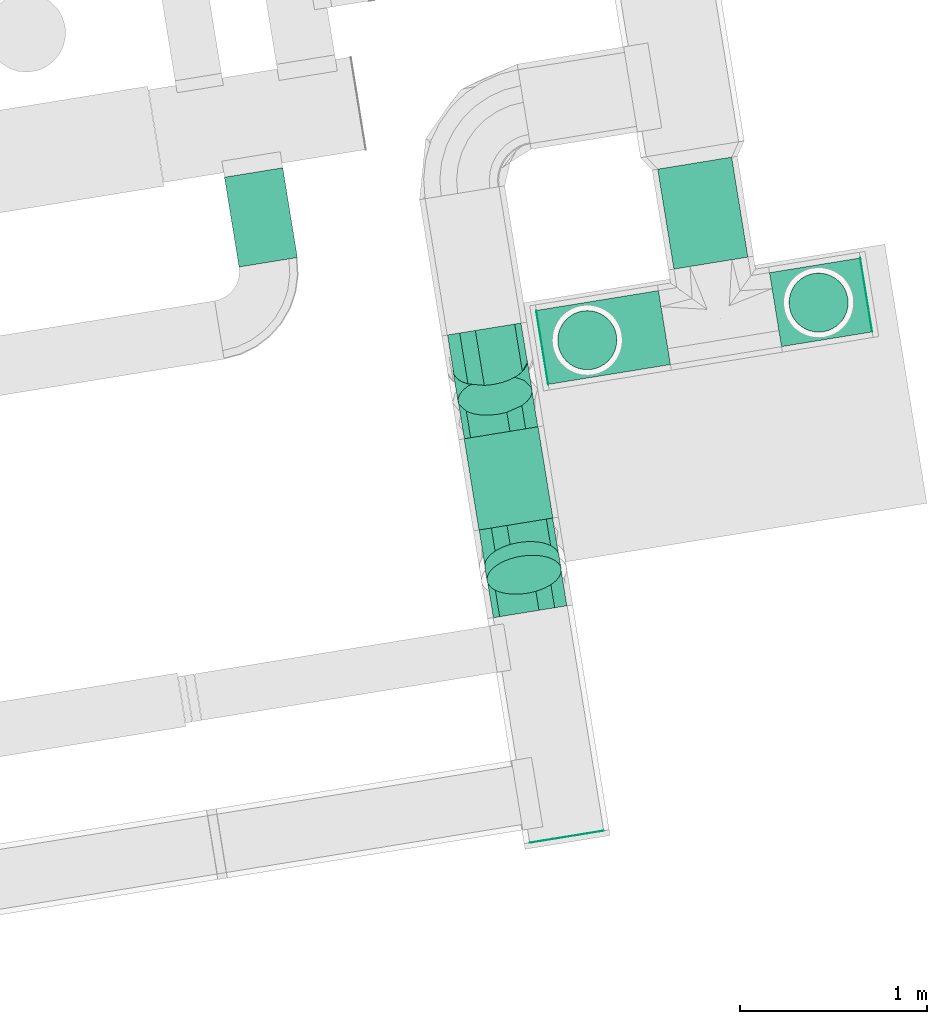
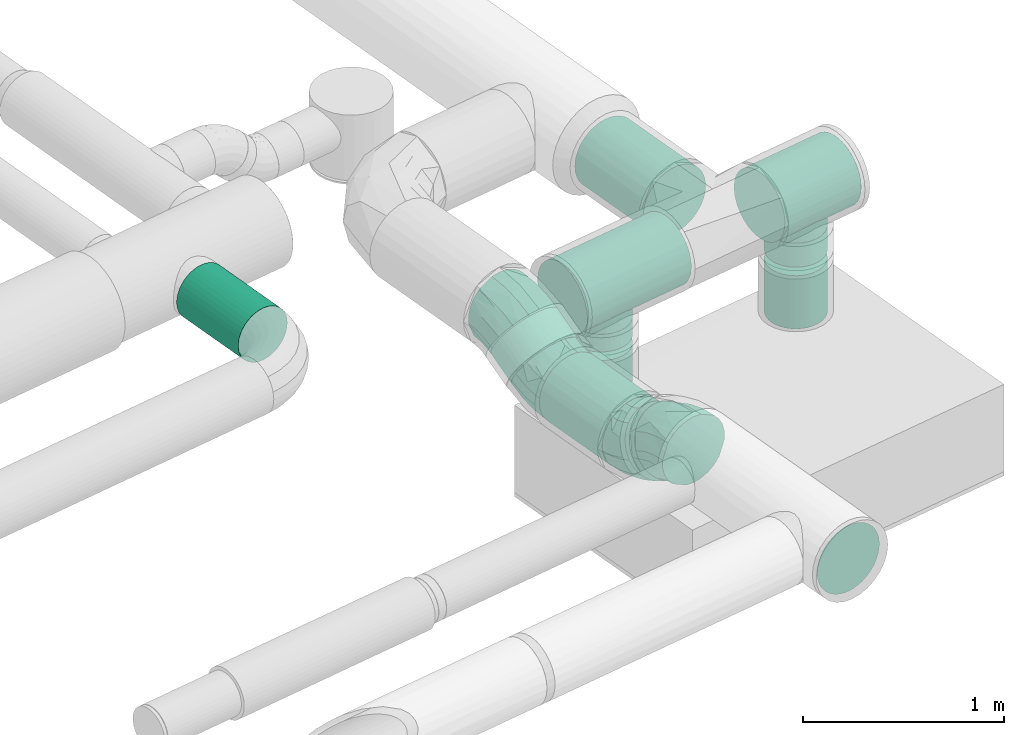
# One storey, part 18 of 39: 11 flow segments, 10 flow fittings.
"""IFC2X3 building model written with IfcOpenShell, lengths in millimetres."""

from ifc_helpers import new_model, entity, si_unit, converted_unit, derived_unit, direction, frame, frame_2d, origin, origin_with_axes, origin_2d_with_axis, place, context, subcontext, project, spatial, circle, extrude, faceted_brep, source, transform, mapped, material, type_object, element, save


model = new_model("IFC2X3")

# Units and contexts
model_context = context("Model", 3, precision=0.01, world=origin(), true_north=direction((6.12323399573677e-17, 1.0)))
plan_context = context("Plan", 3, precision=1e-05, world=origin_with_axes())
body_context = subcontext(model_context, "Body", "Model", "MODEL_VIEW")
ifc_project = project(units=[converted_unit("PLANEANGLEUNIT", "DEGREE", entity("IfcPositiveLengthMeasure", 0.0174532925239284), si_unit("PLANEANGLEUNIT", "RADIAN"), dimensions=[0, 0, 0, 0, 0, 0, 0]), si_unit("AREAUNIT", "SQUARE_METRE"), si_unit("LENGTHUNIT", "METRE", prefix="MILLI"), si_unit("MASSUNIT", "GRAM", prefix="KILO"), si_unit("POWERUNIT", "WATT"), si_unit("PRESSUREUNIT", "PASCAL", prefix="KILO"), si_unit("FORCEUNIT", "NEWTON", prefix="KILO"), si_unit("ELECTRICVOLTAGEUNIT", "VOLT"), si_unit("ELECTRICCURRENTUNIT", "AMPERE"), si_unit("THERMODYNAMICTEMPERATUREUNIT", "DEGREE_CELSIUS"), si_unit("TIMEUNIT", "SECOND"), si_unit("VOLUMEUNIT", "CUBIC_METRE"), derived_unit("LINEARVELOCITYUNIT", [(si_unit("LENGTHUNIT", "METRE"), 1), (si_unit("TIMEUNIT", "SECOND"), -1)]), derived_unit("VOLUMETRICFLOWRATEUNIT", [(si_unit("VOLUMEUNIT", "CUBIC_METRE"), 1), (si_unit("TIMEUNIT", "SECOND"), -1)]), derived_unit("THERMALTRANSMITTANCEUNIT", [(si_unit("POWERUNIT", "WATT"), 1), (si_unit("THERMODYNAMICTEMPERATUREUNIT", "KELVIN"), -1), (si_unit("AREAUNIT", "SQUARE_METRE"), -1)]), derived_unit("SOUNDPRESSUREUNIT", [(si_unit("PRESSUREUNIT", "PASCAL"), 1)])], contexts=[model_context, plan_context])

# Site, building, storey
site_placement = place(None, frame((-0.00071070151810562, 0.00438415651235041, 0.0), z_axis=(0.0, 0.0, 1.0), x_axis=(-0.160236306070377, 0.987078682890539, 0.0)))
site = spatial("IfcSite", under=ifc_project, at=site_placement, Name="Default", CompositionType="ELEMENT")
building_placement = place(site_placement, origin_with_axes())
building = spatial("IfcBuilding", under=site, at=building_placement, CompositionType="ELEMENT")
storey_placement = place(building_placement, frame((0.0, 0.0, 50999.9999999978), z_axis=(0.0, 0.0, 1.0), x_axis=(1.0, 0.0, 0.0)))
storey = spatial("IfcBuildingStorey", under=building, at=storey_placement, Name="Nivå D", CompositionType="ELEMENT", Elevation=50999.9999999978)

# Flow fittings
ifc_material_1 = material(Name="DF_Material1")
duct_fitting_type_1 = type_object("IfcDuctFittingType", Name="Endcap 5521:Lindab EPF", PredefinedType="NOTDEFINED", material=ifc_material_1)
shared_shape_1 = source(origin(), body_context, "Body", "SweptSolid", [
    extrude(circle(Radius=200.000000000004, at=frame_2d((-2.66922633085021e-13, -8.77225269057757e-13), x_axis=(1.0, 0.0))), frame((0.0, 0.0, 0.0), z_axis=(1.0, 0.0, 0.0), x_axis=(0.0, 1.0, 0.0)), (0.0, 0.0, 1.0), 0.800000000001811),
])
for number, where, z_axis, x_axis, name in (
    (1, (768974.832653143, -600722.905078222, 3250.0), (0.0, 0.0, 1.0), (-1.0, 0.0, 0.0), "Endcap 5521:Lindab EPF"),
    (2, (771571.619644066, -602762.905078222, 3300.0), (0.0, 0.0, 1.0), (0.0, -1.0, 0.0), "Endcap 5521:Lindab EPF"),
    (3, (771571.619644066, -601012.905078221, 3300.0), (0.0, 0.0, 1.0), (0.0, 1.0, 0.0), "Endcap 5521:Lindab EPF"),
):
    element("IfcFlowFitting", number, at=place(storey_placement, frame(where, z_axis=z_axis, x_axis=x_axis)), inside=storey, type_object=duct_fitting_type_1, material=ifc_material_1, Name=name, ObjectType="Endcap 5521:Lindab EPF", context=body_context, shape_type="MappedRepresentation", body=[
        mapped(shared_shape_1, transform((0.0, 0.0, 0.0), scale=1.0)),
    ])
ifc_material_2 = material(Name="<Unnamed>")
duct_fitting_type_2 = type_object("IfcDuctFittingType", Name="magicirc_tapoutlet_1:magicirc_tapoutlet_001", PredefinedType="NOTDEFINED", material=ifc_material_2)
shared_shape_2 = source(origin(), body_context, "Body", "Brep", [
    faceted_brep([(-82.8330696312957, -40.763999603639, -152.133317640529), (-82.8330696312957, -78.7499999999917, -136.39900109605), (-82.8330696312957, -111.369318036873, -111.369318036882), (-82.8330696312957, -136.39900109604, -78.750000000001), (-82.8330696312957, -152.13331764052, -40.7639996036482), (-82.8330696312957, -157.499999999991, 0.0), (-82.8330696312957, -152.133317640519, 40.7639996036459), (-82.8330696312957, -136.399001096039, 78.7499999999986), (-82.8330696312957, -111.369318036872, 111.369318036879), (-82.8330696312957, -78.7499999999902, 136.399001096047), (-82.8330696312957, -40.7639996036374, 152.133317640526), (-82.8330696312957, 0.0, 157.499999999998), (-82.8330696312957, 40.7639996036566, 152.133317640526), (-82.8330696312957, 78.7500000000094, 136.399001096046), (-82.8330696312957, 111.36931803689, 111.369318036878), (-82.8330696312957, 136.399001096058, 78.7499999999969), (-82.8330696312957, 152.133317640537, 40.7639996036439), (-82.8330696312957, 157.50000000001, 0.0), (-82.8330696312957, 152.133317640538, -40.7639996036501), (-82.8330696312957, 136.399001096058, -78.7500000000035), (-82.8330696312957, 111.369318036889, -111.369318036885), (-82.8330696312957, 78.7500000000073, -136.399001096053), (-82.8330696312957, 40.7639996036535, -152.133317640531), (-82.8330696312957, 0.0, -157.500000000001), (0.0, -78.7499999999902, 136.399001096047), (25.0, -78.7499999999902, 136.399001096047), (25.0, -40.7639996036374, 152.133317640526), (0.0, -40.7639996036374, 152.133317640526), (25.0, 0.0, 157.499999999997), (0.0, 0.0, 157.499999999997), (0.0, -111.369318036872, 111.369318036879), (25.0, -111.369318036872, 111.369318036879), (0.0, -152.133317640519, 40.7639996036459), (25.0, -152.133317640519, 40.7639996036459), (25.0, -136.399001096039, 78.7499999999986), (0.0, -136.399001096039, 78.7499999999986), (0.0, -157.499999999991, 0.0), (25.0, -157.499999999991, 0.0), (0.0, -152.13331764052, -40.7639996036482), (25.0, -152.13331764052, -40.7639996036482), (0.0, -136.39900109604, -78.750000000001), (25.0, -136.39900109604, -78.750000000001), (0.0, -111.369318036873, -111.369318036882), (25.0, -111.369318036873, -111.369318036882), (0.0, -40.763999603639, -152.133317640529), (25.0, -40.763999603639, -152.133317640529), (25.0, -78.7499999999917, -136.39900109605), (0.0, -78.7499999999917, -136.39900109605), (0.0, 0.0, -157.500000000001), (25.0, 0.0, -157.500000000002), (0.0, 40.7639996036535, -152.133317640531), (25.0, 40.7639996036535, -152.133317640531), (0.0, 78.7500000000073, -136.399001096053), (25.0, 78.7500000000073, -136.399001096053), (0.0, 111.369318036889, -111.369318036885), (25.0, 111.369318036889, -111.369318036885), (0.0, 152.133317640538, -40.7639996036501), (25.0, 152.133317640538, -40.7639996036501), (25.0, 136.399001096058, -78.7500000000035), (0.0, 136.399001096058, -78.7500000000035), (0.0, 157.50000000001, 0.0), (25.0, 157.500000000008, 0.0), (0.0, 136.399001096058, 78.7499999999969), (25.0, 136.399001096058, 78.7499999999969), (25.0, 152.133317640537, 40.7639996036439), (0.0, 152.133317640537, 40.7639996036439), (0.0, 111.36931803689, 111.369318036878), (25.0, 111.36931803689, 111.369318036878), (0.0, 40.7639996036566, 152.133317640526), (25.0, 40.7639996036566, 152.133317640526), (25.0, 78.7500000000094, 136.399001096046), (0.0, 78.7500000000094, 136.399001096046)], [[[0, 1, 2, 3, 4, 5, 6, 7, 8, 9, 10, 11, 12, 13, 14, 15, 16, 17, 18, 19, 20, 21, 22, 23]], [[10, 9, 24, 25, 26, 27]], [[11, 10, 27, 26, 28, 29]], [[24, 9, 8, 30, 31, 25]], [[32, 33, 34, 35, 7, 6]], [[36, 37, 33, 32, 6, 5]], [[8, 7, 35, 34, 31, 30]], [[38, 39, 37, 36, 5, 4]], [[40, 41, 39, 38, 4, 3]], [[3, 2, 42, 43, 41, 40]], [[44, 45, 46, 47, 1, 0]], [[48, 49, 45, 44, 0, 23]], [[2, 1, 47, 46, 43, 42]], [[50, 51, 49, 48, 23, 22]], [[52, 53, 51, 50, 22, 21]], [[21, 20, 54, 55, 53, 52]], [[56, 57, 58, 59, 19, 18]], [[60, 61, 57, 56, 18, 17]], [[20, 19, 59, 58, 55, 54]], [[15, 62, 63, 64, 65, 16]], [[17, 16, 65, 64, 61, 60]], [[62, 15, 14, 66, 67, 63]], [[68, 69, 70, 71, 13, 12]], [[29, 28, 69, 68, 12, 11]], [[14, 13, 71, 70, 67, 66]], [[49, 51, 53, 55, 58, 57, 61, 64, 63, 67, 70, 69, 28, 26, 25, 31, 34, 33, 37, 39, 41, 43, 46, 45]]]),
    faceted_brep([(25.0, 0.0, -157.500000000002), (25.0, 40.7639996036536, -152.133317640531), (25.0, 78.7500000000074, -136.399001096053), (25.0, 111.36931803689, -111.369318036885), (25.0, 136.399001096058, -78.7500000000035), (25.0, 152.133317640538, -40.7639996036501), (25.0, 157.500000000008, 0.0), (25.0, 152.133317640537, 40.7639996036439), (25.0, 136.399001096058, 78.7499999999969), (25.0, 111.36931803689, 111.369318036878), (25.0, 78.7500000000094, 136.399001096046), (25.0, 40.7639996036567, 152.133317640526), (25.0, 0.0, 157.499999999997), (25.0, -40.7639996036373, 152.133317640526), (25.0, -78.7499999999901, 136.399001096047), (25.0, -111.369318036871, 111.369318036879), (25.0, -136.399001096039, 78.7499999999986), (25.0, -152.133317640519, 40.7639996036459), (25.0, -157.499999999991, 0.0), (25.0, -152.133317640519, -40.7639996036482), (25.0, -136.39900109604, -78.750000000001), (25.0, -111.369318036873, -111.369318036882), (25.0, -78.7499999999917, -136.39900109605), (25.0, -40.7639996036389, -152.133317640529), (0.0, 0.0, 157.499999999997), (-82.8330696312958, 0.0, 157.499999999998), (-82.8330696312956, -40.7639996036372, 152.133317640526), (0.0, -40.7639996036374, 152.133317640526), (-82.8330696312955, -78.74999999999, 136.399001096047), (0.0, -78.7499999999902, 136.399001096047), (0.0, -111.369318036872, 111.369318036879), (-82.8330696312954, -111.369318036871, 111.369318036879), (0.0, -136.399001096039, 78.7499999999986), (-82.8330696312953, -136.399001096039, 78.7499999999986), (-82.8330696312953, -152.133317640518, 40.7639996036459), (0.0, -152.133317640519, 40.7639996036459), (-82.8330696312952, -157.49999999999, 0.0), (0.0, -157.499999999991, 0.0), (-82.8330696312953, -152.133317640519, -40.7639996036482), (0.0, -152.13331764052, -40.7639996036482), (-82.8330696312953, -136.39900109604, -78.750000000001), (0.0, -136.39900109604, -78.750000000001), (0.0, -111.369318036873, -111.369318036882), (-82.8330696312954, -111.369318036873, -111.369318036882), (0.0, 0.0, -157.500000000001), (0.0, -40.763999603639, -152.133317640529), (-82.8330696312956, -40.7639996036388, -152.133317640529), (-82.8330696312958, 0.0, -157.500000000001), (0.0, -78.7499999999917, -136.39900109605), (-82.8330696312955, -78.7499999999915, -136.39900109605), (-82.8330696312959, 40.7639996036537, -152.133317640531), (0.0, 40.7639996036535, -152.133317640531), (-82.833069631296, 78.7500000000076, -136.399001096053), (0.0, 78.7500000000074, -136.399001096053), (0.0, 111.369318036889, -111.369318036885), (-82.8330696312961, 111.36931803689, -111.369318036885), (0.0, 136.399001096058, -78.7500000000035), (-82.8330696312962, 136.399001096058, -78.7500000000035), (-82.8330696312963, 152.133317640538, -40.7639996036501), (0.0, 152.133317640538, -40.7639996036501), (-82.8330696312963, 157.50000000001, 0.0), (0.0, 157.50000000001, 0.0), (-82.8330696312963, 152.133317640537, 40.7639996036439), (0.0, 152.133317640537, 40.7639996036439), (-82.8330696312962, 136.399001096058, 78.7499999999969), (0.0, 136.399001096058, 78.7499999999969), (0.0, 111.36931803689, 111.369318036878), (-82.8330696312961, 111.369318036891, 111.369318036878), (0.0, 78.7500000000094, 136.399001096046), (-82.833069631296, 78.7500000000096, 136.399001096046), (-82.8330696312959, 40.7639996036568, 152.133317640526), (0.0, 40.7639996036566, 152.133317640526)], [[[0, 1, 2, 3, 4, 5, 6, 7, 8, 9, 10, 11, 12, 13, 14, 15, 16, 17, 18, 19, 20, 21, 22, 23]], [[13, 12, 24, 25, 26, 27]], [[14, 13, 27, 26, 28, 29]], [[30, 15, 14, 29, 28, 31]], [[17, 16, 32, 33, 34, 35]], [[18, 17, 35, 34, 36, 37]], [[32, 16, 15, 30, 31, 33]], [[19, 18, 37, 36, 38, 39]], [[20, 19, 39, 38, 40, 41]], [[42, 21, 20, 41, 40, 43]], [[44, 0, 23, 45, 46, 47]], [[48, 49, 46, 45, 23, 22]], [[22, 21, 42, 43, 49, 48]], [[1, 0, 44, 47, 50, 51]], [[2, 1, 51, 50, 52, 53]], [[54, 3, 2, 53, 52, 55]], [[5, 4, 56, 57, 58, 59]], [[6, 5, 59, 58, 60, 61]], [[56, 4, 3, 54, 55, 57]], [[7, 6, 61, 60, 62, 63]], [[8, 7, 63, 62, 64, 65]], [[66, 9, 8, 65, 64, 67]], [[11, 10, 68, 69, 70, 71]], [[12, 11, 71, 70, 25, 24]], [[68, 10, 9, 66, 67, 69]], [[46, 49, 43, 40, 38, 36, 34, 33, 31, 28, 26, 25, 70, 69, 67, 64, 62, 60, 58, 57, 55, 52, 50, 47]]]),
    faceted_brep([(-82.8330696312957, -40.763999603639, -152.133317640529), (-82.8330696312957, -78.7499999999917, -136.39900109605), (-82.8330696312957, -111.369318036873, -111.369318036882), (-82.8330696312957, -136.39900109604, -78.750000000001), (-82.8330696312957, -152.13331764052, -40.7639996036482), (-82.8330696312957, -157.499999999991, 0.0), (-82.8330696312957, -152.133317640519, 40.7639996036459), (-82.8330696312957, -136.399001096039, 78.7499999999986), (-82.8330696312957, -111.369318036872, 111.369318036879), (-82.8330696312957, -78.7499999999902, 136.399001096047), (-82.8330696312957, -40.7639996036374, 152.133317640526), (-82.8330696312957, 0.0, 157.499999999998), (-82.8330696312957, 40.7639996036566, 152.133317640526), (-82.8330696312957, 78.7500000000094, 136.399001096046), (-82.8330696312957, 111.36931803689, 111.369318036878), (-82.8330696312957, 136.399001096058, 78.7499999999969), (-82.8330696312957, 152.133317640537, 40.7639996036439), (-82.8330696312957, 157.50000000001, 0.0), (-82.8330696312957, 152.133317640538, -40.7639996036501), (-82.8330696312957, 136.399001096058, -78.7500000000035), (-82.8330696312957, 111.369318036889, -111.369318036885), (-82.8330696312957, 78.7500000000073, -136.399001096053), (-82.8330696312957, 40.7639996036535, -152.133317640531), (-82.8330696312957, 0.0, -157.500000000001), (0.0, -78.7499999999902, 136.399001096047), (25.0, -78.7499999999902, 136.399001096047), (25.0, -40.7639996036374, 152.133317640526), (0.0, -40.7639996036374, 152.133317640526), (25.0, 0.0, 157.499999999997), (0.0, 0.0, 157.499999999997), (0.0, -111.369318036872, 111.369318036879), (25.0, -111.369318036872, 111.369318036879), (0.0, -152.133317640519, 40.7639996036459), (25.0, -152.133317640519, 40.7639996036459), (25.0, -136.399001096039, 78.7499999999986), (0.0, -136.399001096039, 78.7499999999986), (0.0, -157.499999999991, 0.0), (25.0, -157.499999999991, 0.0), (0.0, -152.13331764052, -40.7639996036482), (25.0, -152.13331764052, -40.7639996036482), (0.0, -136.39900109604, -78.750000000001), (25.0, -136.39900109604, -78.750000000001), (0.0, -111.369318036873, -111.369318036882), (25.0, -111.369318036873, -111.369318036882), (0.0, -40.763999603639, -152.133317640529), (25.0, -40.763999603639, -152.133317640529), (25.0, -78.7499999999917, -136.39900109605), (0.0, -78.7499999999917, -136.39900109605), (0.0, 0.0, -157.500000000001), (25.0, 0.0, -157.500000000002), (0.0, 40.7639996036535, -152.133317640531), (25.0, 40.7639996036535, -152.133317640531), (0.0, 78.7500000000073, -136.399001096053), (25.0, 78.7500000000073, -136.399001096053), (0.0, 111.369318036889, -111.369318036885), (25.0, 111.369318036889, -111.369318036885), (0.0, 152.133317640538, -40.7639996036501), (25.0, 152.133317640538, -40.7639996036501), (25.0, 136.399001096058, -78.7500000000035), (0.0, 136.399001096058, -78.7500000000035), (0.0, 157.50000000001, 0.0), (25.0, 157.500000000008, 0.0), (0.0, 136.399001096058, 78.7499999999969), (25.0, 136.399001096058, 78.7499999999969), (25.0, 152.133317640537, 40.7639996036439), (0.0, 152.133317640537, 40.7639996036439), (0.0, 111.36931803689, 111.369318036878), (25.0, 111.36931803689, 111.369318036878), (0.0, 40.7639996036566, 152.133317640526), (25.0, 40.7639996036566, 152.133317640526), (25.0, 78.7500000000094, 136.399001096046), (0.0, 78.7500000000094, 136.399001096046)], [[[0, 1, 2, 3, 4, 5, 6, 7, 8, 9, 10, 11, 12, 13, 14, 15, 16, 17, 18, 19, 20, 21, 22, 23]], [[10, 9, 24, 25, 26, 27]], [[11, 10, 27, 26, 28, 29]], [[24, 9, 8, 30, 31, 25]], [[32, 33, 34, 35, 7, 6]], [[36, 37, 33, 32, 6, 5]], [[8, 7, 35, 34, 31, 30]], [[38, 39, 37, 36, 5, 4]], [[40, 41, 39, 38, 4, 3]], [[3, 2, 42, 43, 41, 40]], [[44, 45, 46, 47, 1, 0]], [[48, 49, 45, 44, 0, 23]], [[2, 1, 47, 46, 43, 42]], [[50, 51, 49, 48, 23, 22]], [[52, 53, 51, 50, 22, 21]], [[21, 20, 54, 55, 53, 52]], [[56, 57, 58, 59, 19, 18]], [[60, 61, 57, 56, 18, 17]], [[20, 19, 59, 58, 55, 54]], [[15, 62, 63, 64, 65, 16]], [[17, 16, 65, 64, 61, 60]], [[62, 15, 14, 66, 67, 63]], [[68, 69, 70, 71, 13, 12]], [[29, 28, 69, 68, 12, 11]], [[14, 13, 71, 70, 67, 66]], [[49, 51, 53, 55, 58, 57, 61, 64, 63, 67, 70, 69, 28, 26, 25, 31, 34, 33, 37, 39, 41, 43, 46, 45]]]),
])
for number, where, z_axis, x_axis, name in (
    (4, (771571.619644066, -602506.055377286, 3100.0), (0.0, -1.0, 0.0), (0.0, 0.0, -1.0), "magicirc_tapoutlet_1:magicirc_tapoutlet_001"),
    (5, (771571.619644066, -601255.985577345, 3100.0), (0.0, -1.0, 0.0), (0.0, 0.0, -1.0), "magicirc_tapoutlet_1:magicirc_tapoutlet_001"),
):
    element("IfcFlowFitting", number, at=place(storey_placement, frame(where, z_axis=z_axis, x_axis=x_axis)), inside=storey, type_object=duct_fitting_type_2, material=ifc_material_2, Name=name, ObjectType="magicirc_tapoutlet_1:magicirc_tapoutlet_001", context=body_context, shape_type="MappedRepresentation", body=[
        mapped(shared_shape_2, transform((0.0, 0.0, 0.0), scale=1.0)),
    ])
duct_fitting_type_3 = type_object("IfcDuctFittingType", Name="magicirc_elbow_full_radius_1:magicirc_elbow_full_radius_001", PredefinedType="NOTDEFINED", material=ifc_material_2)
shared_shape_3 = source(origin(), body_context, "Body", "Brep", [
    faceted_brep([(-2.99077037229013, -190.884651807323, 0.0), (-3.999950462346, -185.161307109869, 47.8631328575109), (-107.179676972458, -194.188363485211, 47.8631328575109), (-107.179676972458, -200.0, 0.0), (-6.96884085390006, -168.323893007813, 92.9446344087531), (-107.179676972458, -177.091205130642, 92.9446344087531), (-11.7249004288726, -141.350938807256, 132.624531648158), (-107.179676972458, -149.702149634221, 132.624531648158), (-17.9917242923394, -105.810014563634, 164.596773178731), (-107.179676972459, -113.612949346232, 164.596773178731), (-33.5342109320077, -17.6641926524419, 198.541774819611), (-107.179676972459, -24.1073360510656, 198.541774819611), (-41.906600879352, 29.8179902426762, 198.541774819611), (-107.179676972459, 24.1073360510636, 198.541774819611), (-50.035704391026, 75.9204271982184, 187.003248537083), (-107.179676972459, 70.9209774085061, 187.003248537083), (-57.4490875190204, 117.963812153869, 164.596773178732), (-107.179676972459, 113.61294934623, 164.596773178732), (-63.7159113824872, 153.504736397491, 132.62453164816), (-107.179676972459, 149.702149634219, 132.62453164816), (-71.440861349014, 197.315104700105, 47.8631328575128), (-107.179676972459, 194.18836348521, 47.8631328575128), (-72.4500414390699, 203.038449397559, 0.0), (-107.179676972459, 200.0, 0.0), (-71.440861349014, 197.315104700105, -47.8631328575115), (-107.179676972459, 194.18836348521, -47.8631328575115), (-68.47197095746, 180.477690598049, -92.9446344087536), (-107.179676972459, 177.091205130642, -92.9446344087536), (-63.7159113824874, 153.504736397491, -132.624531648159), (-107.179676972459, 149.70214963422, -132.624531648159), (-57.4490875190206, 117.96381215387, -164.596773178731), (-107.179676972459, 113.612949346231, -164.596773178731), (-41.9066008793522, 29.8179902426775, -198.541774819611), (-107.179676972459, 24.1073360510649, -198.541774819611), (-33.534210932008, -17.6641926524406, -198.541774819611), (-107.179676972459, -24.1073360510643, -198.541774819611), (-25.4051074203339, -63.7666296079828, -187.003248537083), (-107.179676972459, -70.9209774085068, -187.003248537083), (-17.9917242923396, -105.810014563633, -164.596773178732), (-107.179676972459, -113.612949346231, -164.596773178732), (-11.7249004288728, -141.350938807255, -132.624531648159), (-107.179676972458, -149.70214963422, -132.624531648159), (-3.99995046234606, -185.161307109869, -47.8631328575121), (-107.179676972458, -194.18836348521, -47.8631328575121), (98.0324090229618, -163.815572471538, 0.0), (96.0447122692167, -158.3544205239, 47.8631328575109), (90.197139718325, -142.288346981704, 92.9446344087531), (80.8295310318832, -116.551053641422, 132.624531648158), (68.4862975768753, -82.6382984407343, 164.596773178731), (37.8735748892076, 1.46946589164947, 198.541774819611), (21.3831858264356, 46.7764374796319, 198.541774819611), (5.3719774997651, 90.7668708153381, 187.003248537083), (-9.22953686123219, 130.884201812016, 164.596773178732), (-21.5727703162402, 164.796957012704, 132.62453164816), (-36.7879515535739, 206.600323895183, 47.8631328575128), (-38.7756483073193, 212.061475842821, 0.0), (-36.787951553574, 206.600323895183, -47.8631328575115), (-30.9403790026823, 190.534250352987, -92.9446344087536), (-21.5727703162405, 164.796957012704, -132.624531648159), (-9.22953686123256, 130.884201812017, -164.596773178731), (21.3831858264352, 46.7764374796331, -198.541774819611), (37.8735748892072, 1.46946589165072, -198.541774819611), (53.8847832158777, -42.5209674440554, -187.003248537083), (68.4862975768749, -82.6382984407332, -164.596773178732), (80.829531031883, -116.551053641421, -132.624531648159), (96.0447122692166, -158.3544205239, -47.8631328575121), (192.820323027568, -119.615242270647, 0.0), (189.914504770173, -114.582217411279, 47.8631328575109), (181.365925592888, -99.7756439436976, 92.9446344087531), (167.671397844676, -76.0560260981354, 132.624531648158), (149.62679770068, -44.8018618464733, 164.596773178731), (104.873991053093, 32.7122730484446, 198.541774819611), (80.7666550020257, 74.467403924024, 198.541774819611), (57.3598343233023, 115.009206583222, 187.003248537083), (36.0138483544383, 151.981538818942, 164.596773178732), (17.969248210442, 183.235703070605, 132.62453164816), (-4.27385871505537, 221.761894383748, 47.8631328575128), (-7.17967697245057, 226.794919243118, 0.0), (-4.27385871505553, 221.761894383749, -47.8631328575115), (4.27472046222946, 206.955320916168, -92.9446344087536), (17.9692482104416, 183.235703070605, -132.624531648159), (36.0138483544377, 151.981538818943, -164.596773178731), (80.766655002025, 74.4674039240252, -198.541774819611), (104.873991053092, 32.7122730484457, -198.541774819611), (128.280811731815, -7.82952961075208, -187.003248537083), (149.626797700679, -44.8018618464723, -164.596773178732), (167.671397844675, -76.0560260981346, -132.624531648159), (189.914504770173, -114.582217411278, -47.8631328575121)], [[[0, 1, 2, 3]], [[1, 4, 5, 2]], [[4, 6, 7, 5]], [[6, 8, 9, 7]], [[8, 10, 11, 9]], [[10, 12, 13, 11]], [[12, 14, 15, 13]], [[14, 16, 17, 15]], [[16, 18, 19, 17]], [[18, 20, 21, 19]], [[20, 22, 23, 21]], [[22, 24, 25, 23]], [[24, 26, 27, 25]], [[26, 28, 29, 27]], [[28, 30, 31, 29]], [[30, 32, 33, 31]], [[32, 34, 35, 33]], [[34, 36, 37, 35]], [[36, 38, 39, 37]], [[38, 40, 41, 39]], [[40, 42, 43, 41]], [[42, 0, 3, 43]], [[44, 45, 1, 0]], [[45, 46, 4, 1]], [[46, 47, 6, 4]], [[47, 48, 8, 6]], [[48, 49, 10, 8]], [[49, 50, 12, 10]], [[50, 51, 14, 12]], [[51, 52, 16, 14]], [[52, 53, 18, 16]], [[53, 54, 20, 18]], [[54, 55, 22, 20]], [[55, 56, 24, 22]], [[56, 57, 26, 24]], [[57, 58, 28, 26]], [[58, 59, 30, 28]], [[59, 60, 32, 30]], [[60, 61, 34, 32]], [[61, 62, 36, 34]], [[62, 63, 38, 36]], [[63, 64, 40, 38]], [[64, 65, 42, 40]], [[65, 44, 0, 42]], [[66, 67, 45, 44]], [[67, 68, 46, 45]], [[68, 69, 47, 46]], [[69, 70, 48, 47]], [[70, 71, 49, 48]], [[71, 72, 50, 49]], [[72, 73, 51, 50]], [[73, 74, 52, 51]], [[74, 75, 53, 52]], [[75, 76, 54, 53]], [[76, 77, 55, 54]], [[77, 78, 56, 55]], [[78, 79, 57, 56]], [[79, 80, 58, 57]], [[80, 81, 59, 58]], [[81, 82, 60, 59]], [[82, 83, 61, 60]], [[83, 84, 62, 61]], [[84, 85, 63, 62]], [[85, 86, 64, 63]], [[86, 87, 65, 64]], [[87, 66, 44, 65]], [[3, 2, 5, 7, 9, 11, 13, 15, 17, 19, 21, 23, 25, 27, 29, 31, 33, 35, 37, 39, 41, 43]], [[87, 86, 85, 84, 83, 82, 81, 80, 79, 78, 77, 76, 75, 74, 73, 72, 71, 70, 69, 68, 67, 66]]]),
])
for number, where, z_axis, x_axis, name in (
    (6, (771611.242814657, -600722.905078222, 3300.0), (0.0, -1.0, 0.0), (-1.0, 0.0, 0.0), "magicirc_elbow_full_radius_1:magicirc_elbow_full_radius_001"),
    (7, (771264.832653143, -600722.905078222, 3100.0), (0.0, -1.0, 0.0), (1.0, 0.0, 0.0), "magicirc_elbow_full_radius_1:magicirc_elbow_full_radius_001"),
    (8, (770557.460597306, -600722.905078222, 3100.0), (0.0, 1.0, 0.0), (-1.0, 0.0, 0.0), "magicirc_elbow_full_radius_1:magicirc_elbow_full_radius_001"),
    (9, (770297.652976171, -600722.905078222, 3250.0), (0.0, 1.0, 0.0), (1.0, 0.0, 0.0), "magicirc_elbow_full_radius_1:magicirc_elbow_full_radius_001"),
):
    element("IfcFlowFitting", number, at=place(storey_placement, frame(where, z_axis=z_axis, x_axis=x_axis)), inside=storey, type_object=duct_fitting_type_3, material=ifc_material_2, Name=name, ObjectType="magicirc_elbow_full_radius_1:magicirc_elbow_full_radius_001", context=body_context, shape_type="MappedRepresentation", body=[
        mapped(shared_shape_3, transform((0.0, 0.0, 0.0), scale=1.0)),
    ])
duct_fitting_type_4 = type_object("IfcDuctFittingType", Name="Endcap 5521:Lindab EPF", PredefinedType="NOTDEFINED", material=ifc_material_1)
shared_shape_4 = source(origin(), body_context, "Body", "SweptSolid", [
    extrude(circle(Radius=157.500000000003, at=frame_2d((-1.7386373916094e-13, -7.58786676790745e-13), x_axis=(1.0, 0.0))), frame((0.0, 0.0, 0.0), z_axis=(1.0, 0.0, 0.0), x_axis=(0.0, 1.0, 0.0)), (0.0, 0.0, 1.0), 0.800000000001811),
])
flow_fitting_placement = place(storey_placement, frame((771571.619644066, -602506.055377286, 2555.0), z_axis=(0.0, -1.0, 0.0), x_axis=(0.0, 0.0, -1.0)))
element("IfcFlowFitting", 10, at=flow_fitting_placement, inside=storey, type_object=duct_fitting_type_4, material=ifc_material_1, Name="Endcap 5521:Lindab EPF", ObjectType="Endcap 5521:Lindab EPF", context=body_context, shape_type="MappedRepresentation", body=[
    mapped(shared_shape_4, transform((0.0, 0.0, 0.0), scale=1.0)),
])

# Flow segments
duct_segment_type = type_object("IfcDuctSegmentType", Name="Round Duct:KK001T - Spiro kanaler, Forsinket stål", PredefinedType="NOTDEFINED")
flow_segment_1_placement = place(storey_placement, origin_with_axes())
element("IfcFlowSegment", 11, at=flow_segment_1_placement, inside=storey, type_object=duct_segment_type, Name="Round Duct:KK001T - Spiro kanaler, Forsinket stål", ObjectType="Round Duct:KK001T - Spiro kanaler, Forsinket stål", context=body_context, shape_type="SweptSolid", body=[
    extrude(circle(Radius=200.0, at=origin_2d_with_axis()), frame((771571.619644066, -601672.905078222, 3300.0), z_axis=(0.0, 1.0, 0.0), x_axis=(1.0, 0.0, 0.0)), (0.0, 0.0, 1.0), 660.000000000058),
])
flow_segment_2_placement = place(storey_placement, origin_with_axes())
element("IfcFlowSegment", 12, at=flow_segment_2_placement, inside=storey, type_object=duct_segment_type, Name="Round Duct:KK001T - Spiro kanaler, Forsinket stål", ObjectType="Round Duct:KK001T - Spiro kanaler, Forsinket stål", context=body_context, shape_type="SweptSolid", body=[
    extrude(circle(Radius=200.0, at=frame_2d((0.0, -8.66293703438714e-12), x_axis=(1.0, 0.0))), frame((771571.619644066, -602762.905078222, 3300.0), z_axis=(0.0, 1.0, 0.0), x_axis=(-1.0, 0.0, 0.0)), (0.0, 0.0, 1.0), 490.000000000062),
])
flow_segment_3_placement = place(storey_placement, origin_with_axes())
element("IfcFlowSegment", 13, at=flow_segment_3_placement, inside=storey, type_object=duct_segment_type, Name="Round Duct:KK001T - Spiro kanaler, Forsinket stål", ObjectType="Round Duct:KK001T - Spiro kanaler, Forsinket stål", context=body_context, shape_type="SweptSolid", body=[
    extrude(circle(Radius=200.0, at=frame_2d((6.93034962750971e-11, -8.66293703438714e-12), x_axis=(1.0, 0.0))), frame((770664.640274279, -600722.905078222, 3100.0), z_axis=(1.0, 0.0, 0.0), x_axis=(0.0, -1.0, 0.0)), (0.0, 0.0, 1.0), 493.012701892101),
])
flow_segment_4_placement = place(storey_placement, origin_with_axes())
element("IfcFlowSegment", 14, at=flow_segment_4_placement, inside=storey, type_object=duct_segment_type, Name="Round Duct:KK001T - Spiro kanaler, Forsinket stål", ObjectType="Round Duct:KK001T - Spiro kanaler, Forsinket stål", context=body_context, shape_type="SweptSolid", body=[
    extrude(circle(Radius=200.0, at=frame_2d((0.0, -8.66293703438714e-12), x_axis=(1.0, 0.0))), frame((771871.619644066, -601972.905078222, 3300.0), z_axis=(1.0, 0.0, 0.0), x_axis=(0.0, 1.0, 0.0)), (0.0, 0.0, 1.0), 540.312480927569),
])
flow_segment_5_placement = place(storey_placement, origin_with_axes())
element("IfcFlowSegment", 15, at=flow_segment_5_placement, inside=storey, type_object=duct_segment_type, Name="Round Duct:KK001T - Spiro kanaler, Forsinket stål", ObjectType="Round Duct:KK001T - Spiro kanaler, Forsinket stål", context=body_context, shape_type="SweptSolid", body=[
    extrude(circle(Radius=157.5, at=origin_2d_with_axis()), frame((771571.619644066, -601255.985577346, 2565.0), z_axis=(0.0, 0.0, 1.0), x_axis=(-1.0, 0.0, 0.0)), (0.0, 0.0, 1.0), 351.000000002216),
])
flow_segment_6_placement = place(storey_placement, origin_with_axes())
element("IfcFlowSegment", 16, at=flow_segment_6_placement, inside=storey, type_object=duct_segment_type, Name="Round Duct:KK001T - Spiro kanaler, Forsinket stål", ObjectType="Round Duct:KK001T - Spiro kanaler, Forsinket stål", context=body_context, shape_type="SweptSolid", body=[
    extrude(circle(Radius=200.0, at=frame_2d((-1.36448141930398e-24, 7.50232354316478e-12), x_axis=(1.0, 0.0))), frame((771357.652976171, -600722.905078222, 3153.58983848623), z_axis=(0.866025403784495, 0.0, 0.499999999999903), x_axis=(0.0, 1.0, 0.0)), (0.0, 0.0, 1.0), 185.640646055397),
])
flow_segment_7_placement = place(storey_placement, origin_with_axes())
element("IfcFlowSegment", 17, at=flow_segment_7_placement, inside=storey, type_object=duct_segment_type, Name="Round Duct:KK001T - Spiro kanaler, Forsinket stål", ObjectType="Round Duct:KK001T - Spiro kanaler, Forsinket stål", context=body_context, shape_type="SweptSolid", body=[
    extrude(circle(Radius=157.5, at=frame_2d((0.0, -8.66293703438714e-12), x_axis=(1.0, 0.0))), frame((772254.47928963, -599642.555921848, 3310.0), z_axis=(1.0, 0.0, 0.0), x_axis=(0.0, 1.0, 0.0)), (0.0, 0.0, 1.0), 484.999999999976),
])
flow_segment_8_placement = place(storey_placement, origin_with_axes())
element("IfcFlowSegment", 18, at=flow_segment_8_placement, inside=storey, type_object=duct_segment_type, Name="Round Duct:KK001T - Spiro kanaler, Forsinket stål", ObjectType="Round Duct:KK001T - Spiro kanaler, Forsinket stål", context=body_context, shape_type="SweptSolid", body=[
    extrude(circle(Radius=157.5, at=origin_2d_with_axis()), frame((771571.619644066, -602506.055377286, 2929.0000000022), z_axis=(0.0, 0.0, 1.0), x_axis=(-1.0, 0.0, 0.0)), (0.0, 0.0, 1.0), 145.999999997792),
])
flow_segment_9_placement = place(storey_placement, origin_with_axes())
element("IfcFlowSegment", 19, at=flow_segment_9_placement, inside=storey, type_object=duct_segment_type, Name="Round Duct:KK001T - Spiro kanaler, Forsinket stål", ObjectType="Round Duct:KK001T - Spiro kanaler, Forsinket stål", context=body_context, shape_type="SweptSolid", body=[
    extrude(circle(Radius=157.5, at=origin_2d_with_axis()), frame((771571.619644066, -601255.985577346, 2968.0000000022), z_axis=(0.0, 0.0, 1.0), x_axis=(-1.0, 0.0, 0.0)), (0.0, 0.0, 1.0), 106.999999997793),
])
flow_segment_10_placement = place(storey_placement, origin_with_axes())
element("IfcFlowSegment", 20, at=flow_segment_10_placement, inside=storey, type_object=duct_segment_type, Name="Round Duct:KK001T - Spiro kanaler, Forsinket stål", ObjectType="Round Duct:KK001T - Spiro kanaler, Forsinket stål", context=body_context, shape_type="SweptSolid", body=[
    extrude(circle(Radius=157.5, at=origin_2d_with_axis()), frame((771571.619644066, -602506.055377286, 2555.0), z_axis=(0.0, 0.0, 1.0), x_axis=(-1.0, 0.0, 0.0)), (0.0, 0.0, 1.0), 322.000000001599),
])
flow_segment_11_placement = place(storey_placement, origin_with_axes())
element("IfcFlowSegment", 21, at=flow_segment_11_placement, inside=storey, type_object=duct_segment_type, Name="Round Duct:KK001T - Spiro kanaler, Forsinket stål", ObjectType="Round Duct:KK001T - Spiro kanaler, Forsinket stål", context=body_context, shape_type="SweptSolid", body=[
    extrude(circle(Radius=200.0, at=frame_2d((-6.93034962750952e-11, -5.34775315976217e-12), x_axis=(1.0, 0.0))), frame((770464.640274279, -600722.905078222, 3153.5898384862), z_axis=(-0.866025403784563, 0.0, 0.499999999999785), x_axis=(0.0, 1.0, 0.0)), (0.0, 0.0, 1.0), 85.6406460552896),
])

save(model, "model.ifc")
